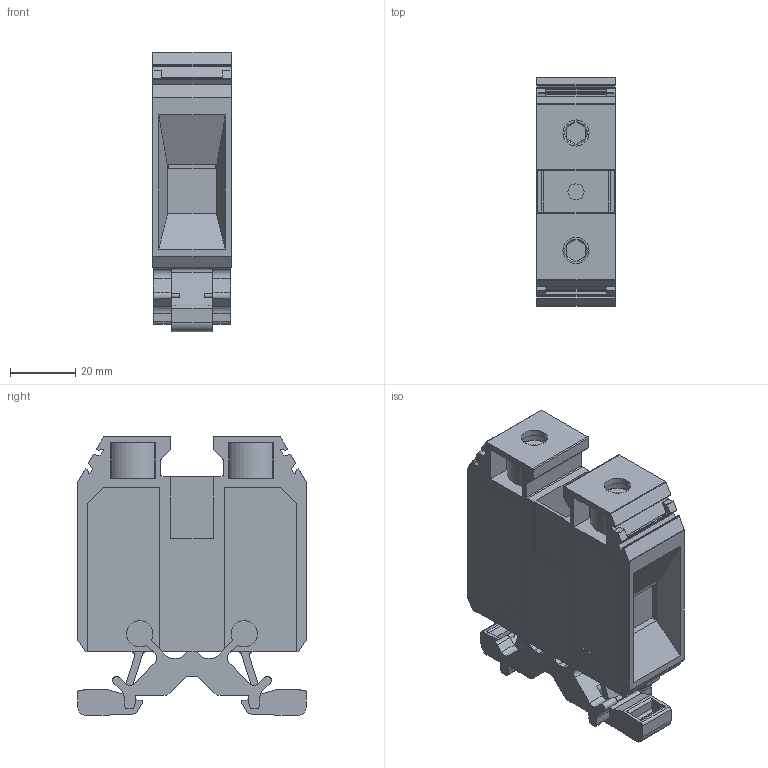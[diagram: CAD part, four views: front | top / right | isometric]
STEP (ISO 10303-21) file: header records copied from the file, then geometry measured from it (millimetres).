
FILE_DESCRIPTION(/* description */ ('Unknown'),/* implementation_level */ '2;1');
FILE_NAME(/* name */ 'RSA 70A',/* time_stamp */ '2021-03-11T13:38:48+01:00',/* author */ ('Unknown'),/* organization */ ('Unknown'),/* preprocessor_version */ 'ST-DEVELOPER v16.7',/* originating_system */ 'Solid Edge',/* authorisation */ 'Unknown');
FILE_SCHEMA (('AUTOMOTIVE_DESIGN {1 0 10303 214 3 1 1}'));
Length unit declared in the file: millimetre
Products named in the file (1): RSA 70A
Bounding box: 23.94 x 70.04 x 85.74 mm (x, y, z)
Volume: 94584.1 mm3; surface area: 28623 mm2
Topology: 1 solids, 1 shells, 449 faces, 1227 edges, 801 vertices
Faces by surface type: plane 276, cylinder 99, cone 72, torus 2
Full cylindrical faces by diameter (mm): 1.321 x4, 4.917 x1, 8 x4, 8.829 x2, 13 x2, 13.93 x2
Entity records: 17260 total; most frequent: CARTESIAN_POINT 2564, ORIENTED_EDGE 2406, DIRECTION 2397, EDGE_CURVE 1203, LINE 861, VECTOR 861, VERTEX_POINT 795, AXIS2_PLACEMENT_3D 768
